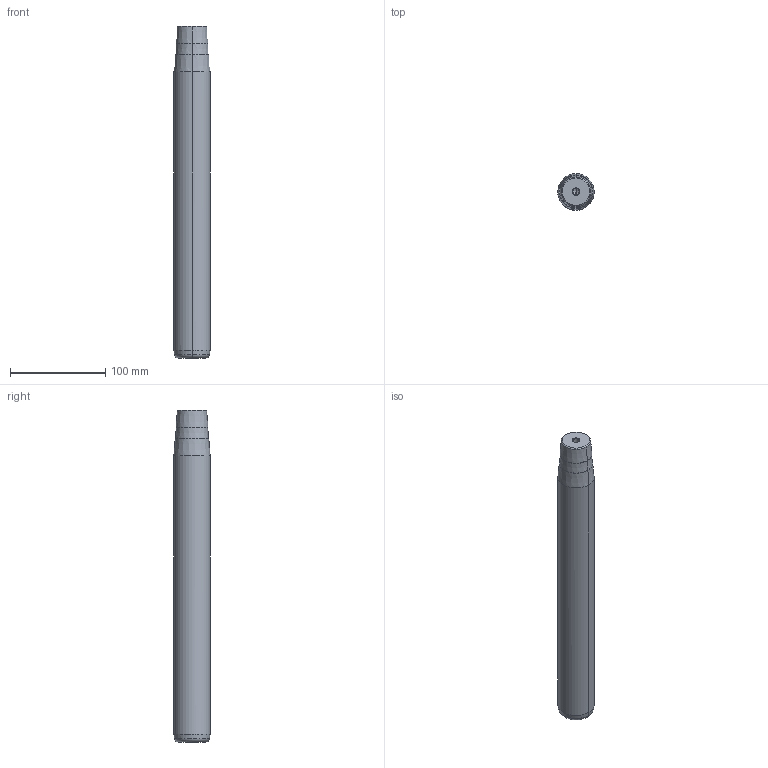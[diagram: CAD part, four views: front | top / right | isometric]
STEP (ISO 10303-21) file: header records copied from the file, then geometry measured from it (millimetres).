
FILE_DESCRIPTION(('CATIA V5 STEP Exchange'),'2;1');
FILE_NAME('C:\Users\Utente\Desktop\IO LAVORO\3D X SITO CF\X SITO\722\722-38x315x348.stp','2021-01-08T15:59:53+00:00',('none'),('none'),'CATIA Version 5 Release 20 GA (IN-10)','CATIA V5 STEP AP203','none');
FILE_SCHEMA(('CONFIG_CONTROL_DESIGN'));
Length unit declared in the file: millimetre
Products named in the file (1): 722-38x315x348
Bounding box: 38 x 38 x 348 mm (x, y, z)
Volume: 381923.8 mm3; surface area: 43671.9 mm2
Topology: 1 solids, 1 shells, 32 faces, 98 edges, 66 vertices
Faces by surface type: cone 22, cylinder 6, plane 2, torus 2
Entity records: 1166 total; most frequent: CARTESIAN_POINT 279, ORIENTED_EDGE 188, DIRECTION 148, EDGE_CURVE 94, AXIS2_PLACEMENT_3D 89, VERTEX_POINT 66, CIRCLE 56, EDGE_LOOP 34
